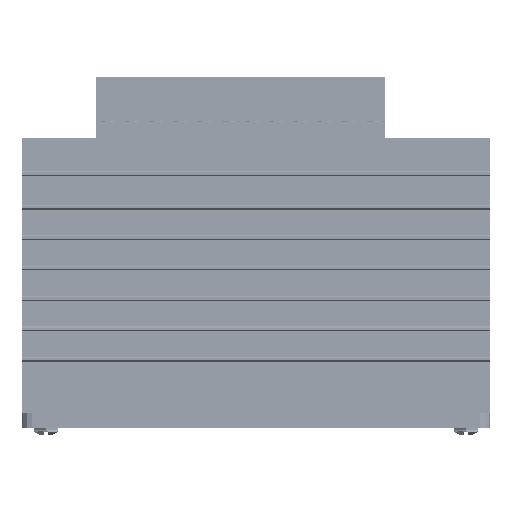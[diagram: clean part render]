
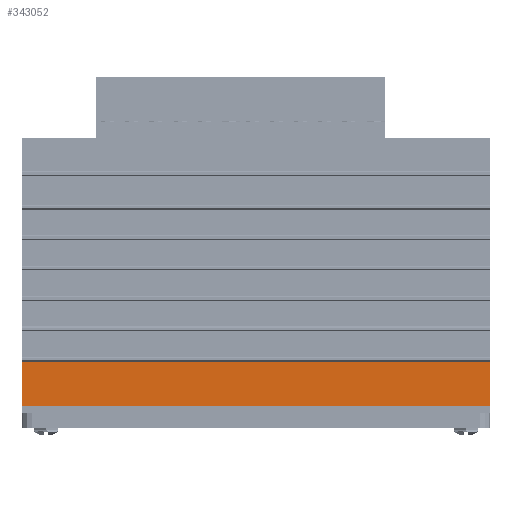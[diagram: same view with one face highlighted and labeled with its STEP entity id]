
A CAD part, front view. The second image highlights one B-rep face of the part: STEP entity #343052.
In plain terms, the highlighted planar face has unit normal (0, -1, 0) as drawn and (0, 0, -1) by its records, which use the part's own axes.
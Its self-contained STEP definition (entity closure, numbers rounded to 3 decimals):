
#17721=PLANE('',#364060);
#33683=FACE_OUTER_BOUND('',#52789,.T.);
#52789=EDGE_LOOP('',(#263082,#263083,#263084,#263085));
#77595=LINE('',#535325,#113845);
#77649=LINE('',#535461,#113899);
#77661=LINE('',#535485,#113911);
#77662=LINE('',#535486,#113912);
#113845=VECTOR('',#404102,9.2);
#113899=VECTOR('',#404188,9.2);
#113911=VECTOR('',#404210,97.);
#113912=VECTOR('',#404211,97.);
#154856=VERTEX_POINT('',#535322);
#154857=VERTEX_POINT('',#535324);
#154922=VERTEX_POINT('',#535458);
#154923=VERTEX_POINT('',#535460);
#193971=EDGE_CURVE('',#154857,#154856,#77595,.T.);
#194039=EDGE_CURVE('',#154923,#154922,#77649,.T.);
#194053=EDGE_CURVE('',#154857,#154922,#77661,.T.);
#194054=EDGE_CURVE('',#154923,#154856,#77662,.T.);
#263082=ORIENTED_EDGE('',*,*,#194053,.F.);
#263083=ORIENTED_EDGE('',*,*,#193971,.T.);
#263084=ORIENTED_EDGE('',*,*,#194054,.F.);
#263085=ORIENTED_EDGE('',*,*,#194039,.T.);
#343052=ADVANCED_FACE('',(#33683),#17721,.F.);
#364060=AXIS2_PLACEMENT_3D('',#535484,#404208,#404209);
#404102=DIRECTION('',(0.,1.,0.));
#404188=DIRECTION('',(0.,-1.,0.));
#404208=DIRECTION('center_axis',(0.,0.,1.));
#404209=DIRECTION('ref_axis',(-1.,0.,0.));
#404210=DIRECTION('',(1.,0.,0.));
#404211=DIRECTION('',(-1.,0.,0.));
#535322=CARTESIAN_POINT('',(-48.5,1.002,-10.302));
#535324=CARTESIAN_POINT('',(-48.5,-8.198,-10.302));
#535325=CARTESIAN_POINT('',(-48.5,-8.198,-10.302));
#535458=CARTESIAN_POINT('',(48.5,-8.198,-10.302));
#535460=CARTESIAN_POINT('',(48.5,1.002,-10.302));
#535461=CARTESIAN_POINT('',(48.5,1.002,-10.302));
#535484=CARTESIAN_POINT('Origin',(0.,-25.998,-10.302));
#535485=CARTESIAN_POINT('',(-48.5,-8.198,-10.302));
#535486=CARTESIAN_POINT('',(48.5,1.002,-10.302));
